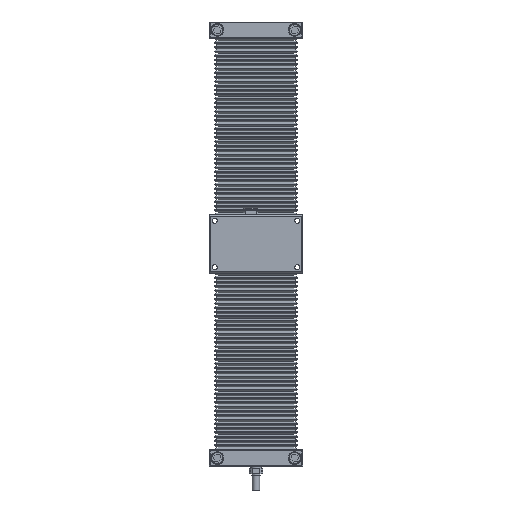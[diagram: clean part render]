
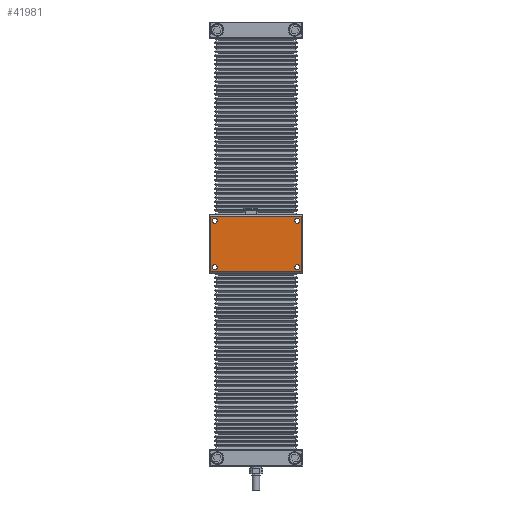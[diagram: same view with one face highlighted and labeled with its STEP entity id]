
A CAD part, front view. The second image highlights one B-rep face of the part: STEP entity #41981.
In plain terms, the highlighted planar face has unit normal (0, -1, 0).
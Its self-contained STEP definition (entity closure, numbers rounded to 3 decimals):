
#120 = ORIENTED_EDGE ( 'NONE', *, *, #6570, .T. ) ;
#471 = CIRCLE ( 'NONE', #20847, 3.4 ) ;
#572 = DIRECTION ( 'NONE',  ( 1., 0., 0. ) ) ;
#1170 = FACE_BOUND ( 'NONE', #1668, .T. ) ;
#1239 = CIRCLE ( 'NONE', #33650, 3.4 ) ;
#1370 = DIRECTION ( 'NONE',  ( 0., 1., 0. ) ) ;
#1668 = EDGE_LOOP ( 'NONE', ( #38654, #1793 ) ) ;
#1793 = ORIENTED_EDGE ( 'NONE', *, *, #14421, .T. ) ;
#2516 = VERTEX_POINT ( 'NONE', #53105 ) ;
#2615 = CARTESIAN_POINT ( 'NONE',  ( -65., -23., 79. ) ) ;
#2816 = EDGE_CURVE ( 'NONE', #32838, #2516, #11903, .T. ) ;
#3490 = CARTESIAN_POINT ( 'NONE',  ( -57.5, -23., 72.5 ) ) ;
#3877 = VERTEX_POINT ( 'NONE', #20156 ) ;
#5251 = DIRECTION ( 'NONE',  ( 0., 1., 0. ) ) ;
#5764 = VERTEX_POINT ( 'NONE', #27083 ) ;
#6570 = EDGE_CURVE ( 'NONE', #34465, #38959, #24951, .T. ) ;
#6610 = AXIS2_PLACEMENT_3D ( 'NONE', #23437, #1370, #49847 ) ;
#8134 = DIRECTION ( 'NONE',  ( 0., 1., 0. ) ) ;
#9995 = CARTESIAN_POINT ( 'NONE',  ( -57.5, -23., 75.9 ) ) ;
#10450 = EDGE_CURVE ( 'NONE', #16636, #31036, #471, .T. ) ;
#10564 = DIRECTION ( 'NONE',  ( 0., 0., 1. ) ) ;
#11256 = CIRCLE ( 'NONE', #6610, 3.4 ) ;
#11325 = DIRECTION ( 'NONE',  ( 0., 1., 0. ) ) ;
#11903 = CIRCLE ( 'NONE', #44296, 3.4 ) ;
#13021 = ORIENTED_EDGE ( 'NONE', *, *, #10450, .T. ) ;
#13168 = EDGE_CURVE ( 'NONE', #48711, #5764, #18854, .T. ) ;
#13646 = AXIS2_PLACEMENT_3D ( 'NONE', #33337, #42327, #23796 ) ;
#14421 = EDGE_CURVE ( 'NONE', #2516, #32838, #44283, .T. ) ;
#15292 = ORIENTED_EDGE ( 'NONE', *, *, #29187, .T. ) ;
#16636 = VERTEX_POINT ( 'NONE', #33618 ) ;
#17510 = DIRECTION ( 'NONE',  ( 0., 1., 0. ) ) ;
#17886 = VECTOR ( 'NONE', #10564, 1000. ) ;
#18549 = DIRECTION ( 'NONE',  ( 0., 0., -1. ) ) ;
#18854 = LINE ( 'NONE', #36540, #32156 ) ;
#18883 = FACE_BOUND ( 'NONE', #30509, .T. ) ;
#20156 = CARTESIAN_POINT ( 'NONE',  ( 57.5, -23., 75.9 ) ) ;
#20847 = AXIS2_PLACEMENT_3D ( 'NONE', #43074, #51789, #21034 ) ;
#21034 = DIRECTION ( 'NONE',  ( 0., 0., 1. ) ) ;
#21160 = EDGE_LOOP ( 'NONE', ( #25091, #15292 ) ) ;
#22479 = CARTESIAN_POINT ( 'NONE',  ( -64., -23., 1. ) ) ;
#22958 = DIRECTION ( 'NONE',  ( 0., 0., 1. ) ) ;
#23239 = FACE_OUTER_BOUND ( 'NONE', #25322, .T. ) ;
#23437 = CARTESIAN_POINT ( 'NONE',  ( -57.5, -23., 7.5 ) ) ;
#23783 = EDGE_CURVE ( 'NONE', #31036, #16636, #56656, .T. ) ;
#23796 = DIRECTION ( 'NONE',  ( 0., 0., 1. ) ) ;
#24876 = CARTESIAN_POINT ( 'NONE',  ( -64., -23., 79. ) ) ;
#24951 = LINE ( 'NONE', #2615, #38981 ) ;
#25091 = ORIENTED_EDGE ( 'NONE', *, *, #34879, .T. ) ;
#25322 = EDGE_LOOP ( 'NONE', ( #120, #56692, #55225, #32301 ) ) ;
#25909 = CARTESIAN_POINT ( 'NONE',  ( -57.5, -23., 7.5 ) ) ;
#27083 = CARTESIAN_POINT ( 'NONE',  ( 64., -23., 1. ) ) ;
#28445 = EDGE_CURVE ( 'NONE', #5764, #34465, #50009, .T. ) ;
#29187 = EDGE_CURVE ( 'NONE', #29844, #3877, #1239, .T. ) ;
#29540 = CARTESIAN_POINT ( 'NONE',  ( 57.5, -23., 7.5 ) ) ;
#29844 = VERTEX_POINT ( 'NONE', #55034 ) ;
#30403 = CARTESIAN_POINT ( 'NONE',  ( -57.5, -23., 72.5 ) ) ;
#30509 = EDGE_LOOP ( 'NONE', ( #32836, #13021 ) ) ;
#31036 = VERTEX_POINT ( 'NONE', #32502 ) ;
#32156 = VECTOR ( 'NONE', #572, 1000. ) ;
#32289 = CARTESIAN_POINT ( 'NONE',  ( 64., -23., 80. ) ) ;
#32301 = ORIENTED_EDGE ( 'NONE', *, *, #28445, .T. ) ;
#32502 = CARTESIAN_POINT ( 'NONE',  ( 57.5, -23., 10.9 ) ) ;
#32836 = ORIENTED_EDGE ( 'NONE', *, *, #23783, .T. ) ;
#32838 = VERTEX_POINT ( 'NONE', #9995 ) ;
#33337 = CARTESIAN_POINT ( 'NONE',  ( 57.5, -23., 72.5 ) ) ;
#33498 = AXIS2_PLACEMENT_3D ( 'NONE', #29540, #39389, #38527 ) ;
#33618 = CARTESIAN_POINT ( 'NONE',  ( 57.5, -23., 4.1 ) ) ;
#33650 = AXIS2_PLACEMENT_3D ( 'NONE', #44985, #5251, #22958 ) ;
#33675 = CARTESIAN_POINT ( 'NONE',  ( 64., -23., 79. ) ) ;
#33891 = CIRCLE ( 'NONE', #41321, 3.4 ) ;
#34465 = VERTEX_POINT ( 'NONE', #33675 ) ;
#34879 = EDGE_CURVE ( 'NONE', #3877, #29844, #56201, .T. ) ;
#34894 = DIRECTION ( 'NONE',  ( 0., 0., 1. ) ) ;
#35103 = DIRECTION ( 'NONE',  ( 0., 0., 1. ) ) ;
#35388 = EDGE_LOOP ( 'NONE', ( #36256, #57183 ) ) ;
#35477 = VECTOR ( 'NONE', #18549, 1000. ) ;
#35669 = EDGE_CURVE ( 'NONE', #42106, #50536, #33891, .T. ) ;
#36256 = ORIENTED_EDGE ( 'NONE', *, *, #35669, .T. ) ;
#36540 = CARTESIAN_POINT ( 'NONE',  ( -65., -23., 1. ) ) ;
#36569 = FACE_BOUND ( 'NONE', #21160, .T. ) ;
#38527 = DIRECTION ( 'NONE',  ( 0., 0., 1. ) ) ;
#38654 = ORIENTED_EDGE ( 'NONE', *, *, #2816, .T. ) ;
#38959 = VERTEX_POINT ( 'NONE', #24876 ) ;
#38981 = VECTOR ( 'NONE', #47543, 1000. ) ;
#39389 = DIRECTION ( 'NONE',  ( 0., 1., 0. ) ) ;
#40306 = CARTESIAN_POINT ( 'NONE',  ( -64., -23., 80. ) ) ;
#40852 = EDGE_CURVE ( 'NONE', #50536, #42106, #11256, .T. ) ;
#40923 = FACE_BOUND ( 'NONE', #35388, .T. ) ;
#40970 = AXIS2_PLACEMENT_3D ( 'NONE', #55661, #11325, #56508 ) ;
#41161 = LINE ( 'NONE', #40306, #35477 ) ;
#41321 = AXIS2_PLACEMENT_3D ( 'NONE', #25909, #17510, #34894 ) ;
#41475 = CARTESIAN_POINT ( 'NONE',  ( -57.5, -23., 4.1 ) ) ;
#41981 = ADVANCED_FACE ( 'NONE', ( #23239, #40923, #1170, #18883, #36569 ), #51329, .F. ) ;
#42106 = VERTEX_POINT ( 'NONE', #55940 ) ;
#42327 = DIRECTION ( 'NONE',  ( 0., 1., 0. ) ) ;
#43074 = CARTESIAN_POINT ( 'NONE',  ( 57.5, -23., 7.5 ) ) ;
#44283 = CIRCLE ( 'NONE', #53522, 3.4 ) ;
#44296 = AXIS2_PLACEMENT_3D ( 'NONE', #30403, #47812, #52747 ) ;
#44985 = CARTESIAN_POINT ( 'NONE',  ( 57.5, -23., 72.5 ) ) ;
#45939 = EDGE_CURVE ( 'NONE', #38959, #48711, #41161, .T. ) ;
#47543 = DIRECTION ( 'NONE',  ( -1., 0., 0. ) ) ;
#47812 = DIRECTION ( 'NONE',  ( 0., 1., 0. ) ) ;
#48711 = VERTEX_POINT ( 'NONE', #22479 ) ;
#49847 = DIRECTION ( 'NONE',  ( 0., 0., 1. ) ) ;
#50009 = LINE ( 'NONE', #32289, #17886 ) ;
#50536 = VERTEX_POINT ( 'NONE', #41475 ) ;
#51329 = PLANE ( 'NONE',  #40970 ) ;
#51789 = DIRECTION ( 'NONE',  ( 0., 1., 0. ) ) ;
#52747 = DIRECTION ( 'NONE',  ( 0., 0., 1. ) ) ;
#53105 = CARTESIAN_POINT ( 'NONE',  ( -57.5, -23., 69.1 ) ) ;
#53522 = AXIS2_PLACEMENT_3D ( 'NONE', #3490, #8134, #35103 ) ;
#55034 = CARTESIAN_POINT ( 'NONE',  ( 57.5, -23., 69.1 ) ) ;
#55225 = ORIENTED_EDGE ( 'NONE', *, *, #13168, .T. ) ;
#55661 = CARTESIAN_POINT ( 'NONE',  ( -65., -23., 80. ) ) ;
#55940 = CARTESIAN_POINT ( 'NONE',  ( -57.5, -23., 10.9 ) ) ;
#56201 = CIRCLE ( 'NONE', #13646, 3.4 ) ;
#56508 = DIRECTION ( 'NONE',  ( 0., 0., 1. ) ) ;
#56656 = CIRCLE ( 'NONE', #33498, 3.4 ) ;
#56692 = ORIENTED_EDGE ( 'NONE', *, *, #45939, .T. ) ;
#57183 = ORIENTED_EDGE ( 'NONE', *, *, #40852, .T. ) ;
